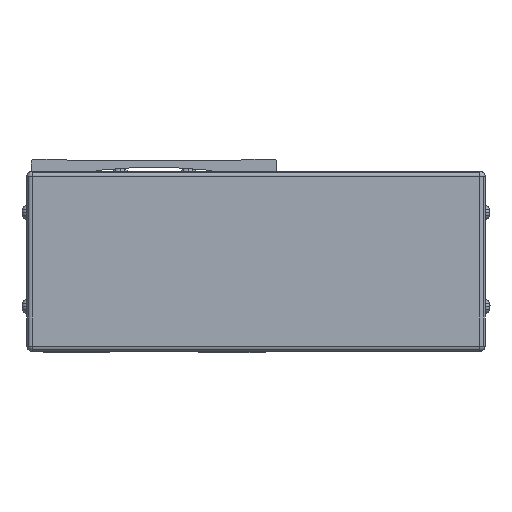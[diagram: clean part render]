
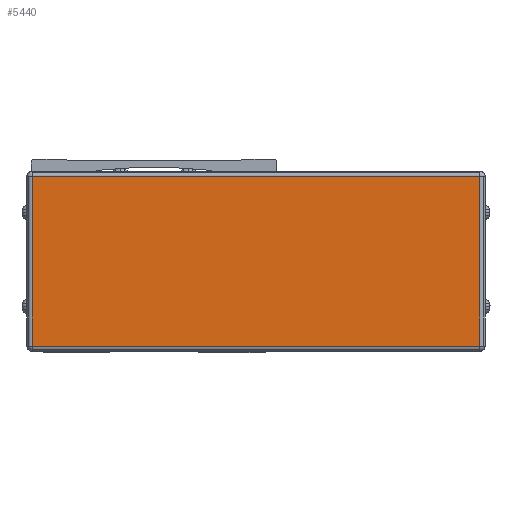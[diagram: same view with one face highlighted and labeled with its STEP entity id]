
A CAD part, front view. The second image highlights one B-rep face of the part: STEP entity #5440.
In plain terms, the highlighted planar face has unit normal (0, -1, 0).
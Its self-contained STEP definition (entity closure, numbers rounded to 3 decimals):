
#5440=ADVANCED_FACE('',(#11910),#11911,.T.);
#11910=FACE_OUTER_BOUND('',#20828,.T.);
#11911=PLANE('',#20829);
#20828=EDGE_LOOP('',(#36870,#36871,#36872,#36873));
#20829=AXIS2_PLACEMENT_3D('',#36874,#36875,#36876);
#36870=ORIENTED_EDGE('',*,*,#48905,.F.);
#36871=ORIENTED_EDGE('',*,*,#51111,.F.);
#36872=ORIENTED_EDGE('',*,*,#52101,.F.);
#36873=ORIENTED_EDGE('',*,*,#53270,.F.);
#36874=CARTESIAN_POINT('',(39.,-138.778,-42.5));
#36875=DIRECTION('',(0.0,-1.0,0.0));
#36876=DIRECTION('',(1.0,0.0,0.0));
#48905=EDGE_CURVE('',#59267,#59269,#59270,.T.);
#51111=EDGE_CURVE('',#62797,#59267,#62799,.T.);
#52101=EDGE_CURVE('',#62129,#62797,#64206,.T.);
#53270=EDGE_CURVE('',#59269,#62129,#65771,.T.);
#59267=VERTEX_POINT('',#73949);
#59269=VERTEX_POINT('',#73951);
#59270=LINE('',#73952,#73953);
#62129=VERTEX_POINT('',#78072);
#62797=VERTEX_POINT('',#79089);
#62799=LINE('',#79091,#79092);
#64206=LINE('',#81284,#81285);
#65771=LINE('',#83601,#83602);
#73949=CARTESIAN_POINT('',(124.7,-138.778,-40.5));
#73951=CARTESIAN_POINT('',(-46.7,-138.778,-40.5));
#73952=CARTESIAN_POINT('',(39.,-138.778,-40.5));
#73953=VECTOR('',#90026,10.0);
#78072=CARTESIAN_POINT('',(-46.7,-138.778,24.5));
#79089=CARTESIAN_POINT('',(124.7,-138.778,24.5));
#79091=CARTESIAN_POINT('',(124.7,-138.778,-42.5));
#79092=VECTOR('',#92865,10.0);
#81284=CARTESIAN_POINT('',(39.,-138.778,24.5));
#81285=VECTOR('',#93996,10.0);
#83601=CARTESIAN_POINT('',(-46.7,-138.778,-42.5));
#83602=VECTOR('',#95300,10.0);
#90026=DIRECTION('',(-1.0,0.0,0.0));
#92865=DIRECTION('',(0.0,0.0,-1.0));
#93996=DIRECTION('',(1.0,0.0,0.0));
#95300=DIRECTION('',(0.0,0.0,1.0));
